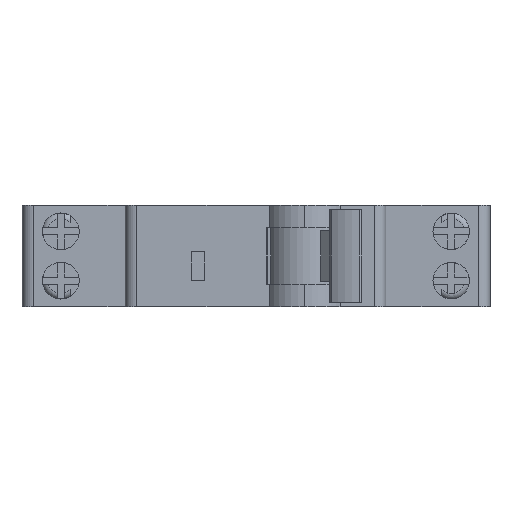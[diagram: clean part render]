
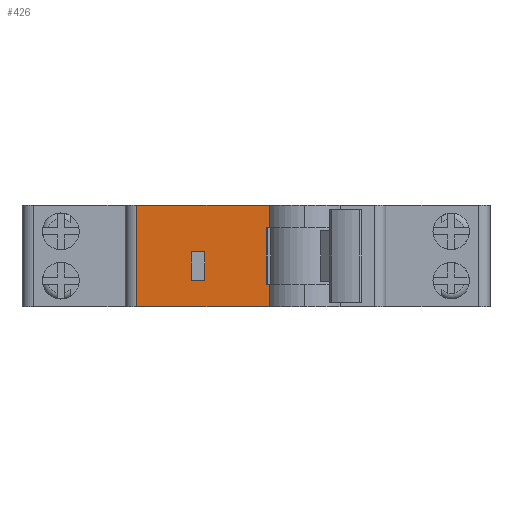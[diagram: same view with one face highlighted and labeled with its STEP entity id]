
A CAD part, left-side view. The second image highlights one B-rep face of the part: STEP entity #426.
In plain terms, the highlighted planar face has unit normal (-1, 0, 0).
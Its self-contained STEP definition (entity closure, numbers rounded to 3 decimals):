
#119 = VERTEX_POINT ( 'NONE', #7583 ) ;
#277 = EDGE_CURVE ( 'NONE', #5686, #3202, #1298, .T. ) ;
#317 = LINE ( 'NONE', #4777, #4726 ) ;
#356 = VERTEX_POINT ( 'NONE', #881 ) ;
#426 = ADVANCED_FACE ( 'NONE', ( #3640, #1777 ), #5953, .T. ) ;
#538 = DIRECTION ( 'NONE',  ( 0., 1., 0. ) ) ;
#603 = VECTOR ( 'NONE', #7123, 1000. ) ;
#689 = DIRECTION ( 'NONE',  ( 0., 0., -1. ) ) ;
#724 = DIRECTION ( 'NONE',  ( 0., 1., 0. ) ) ;
#881 = CARTESIAN_POINT ( 'NONE',  ( -16.3, 49.25, 4.5 ) ) ;
#914 = ORIENTED_EDGE ( 'NONE', *, *, #3740, .T. ) ;
#929 = VECTOR ( 'NONE', #7754, 1000. ) ;
#1003 = ORIENTED_EDGE ( 'NONE', *, *, #5908, .F. ) ;
#1005 = LINE ( 'NONE', #1540, #5939 ) ;
#1128 = VERTEX_POINT ( 'NONE', #4542 ) ;
#1298 = LINE ( 'NONE', #6411, #603 ) ;
#1354 = LINE ( 'NONE', #7089, #929 ) ;
#1362 = EDGE_CURVE ( 'NONE', #5027, #1128, #4289, .T. ) ;
#1540 = CARTESIAN_POINT ( 'NONE',  ( -16.3, 38.107, 3.9 ) ) ;
#1682 = VECTOR ( 'NONE', #538, 1000. ) ;
#1777 = FACE_OUTER_BOUND ( 'NONE', #3348, .T. ) ;
#1928 = DIRECTION ( 'NONE',  ( 0., -1., 0. ) ) ;
#2107 = EDGE_CURVE ( 'NONE', #3919, #3039, #4304, .T. ) ;
#2159 = DIRECTION ( 'NONE',  ( -1., 0., 0. ) ) ;
#2176 = LINE ( 'NONE', #4704, #1682 ) ;
#2341 = EDGE_CURVE ( 'NONE', #356, #6378, #6138, .T. ) ;
#2353 = EDGE_CURVE ( 'NONE', #5027, #119, #2176, .T. ) ;
#2427 = EDGE_CURVE ( 'NONE', #7549, #2471, #6796, .T. ) ;
#2471 = VERTEX_POINT ( 'NONE', #8136 ) ;
#2522 = DIRECTION ( 'NONE',  ( 0., 0., -1. ) ) ;
#2644 = VECTOR ( 'NONE', #1928, 1000. ) ;
#2817 = EDGE_CURVE ( 'NONE', #7179, #5686, #1005, .T. ) ;
#2823 = ORIENTED_EDGE ( 'NONE', *, *, #277, .T. ) ;
#2827 = EDGE_CURVE ( 'NONE', #7179, #7549, #317, .T. ) ;
#3039 = VERTEX_POINT ( 'NONE', #4242 ) ;
#3041 = CARTESIAN_POINT ( 'NONE',  ( -16.3, 18., 0. ) ) ;
#3163 = CARTESIAN_POINT ( 'NONE',  ( -16.3, 51.5, 9.5 ) ) ;
#3202 = VERTEX_POINT ( 'NONE', #7698 ) ;
#3206 = CARTESIAN_POINT ( 'NONE',  ( -16.3, 38.107, 17.5 ) ) ;
#3348 = EDGE_LOOP ( 'NONE', ( #5375, #4477, #2823, #4547, #5001, #5260, #914, #5186 ) ) ;
#3478 = CARTESIAN_POINT ( 'NONE',  ( -16.3, 49.25, 9.5 ) ) ;
#3507 = DIRECTION ( 'NONE',  ( 0., 1., 0. ) ) ;
#3530 = CARTESIAN_POINT ( 'NONE',  ( -16.3, 38.107, 3.9 ) ) ;
#3640 = FACE_BOUND ( 'NONE', #7834, .T. ) ;
#3740 = EDGE_CURVE ( 'NONE', #119, #2471, #5438, .T. ) ;
#3919 = VERTEX_POINT ( 'NONE', #3163 ) ;
#4038 = AXIS2_PLACEMENT_3D ( 'NONE', #5570, #2159, #4893 ) ;
#4176 = CARTESIAN_POINT ( 'NONE',  ( -16.3, 61., 17.5 ) ) ;
#4232 = VECTOR ( 'NONE', #3507, 1000. ) ;
#4242 = CARTESIAN_POINT ( 'NONE',  ( -16.3, 51.5, 4.5 ) ) ;
#4289 = LINE ( 'NONE', #8083, #4987 ) ;
#4304 = LINE ( 'NONE', #5685, #5671 ) ;
#4423 = CARTESIAN_POINT ( 'NONE',  ( -16.3, 51.5, 4.5 ) ) ;
#4477 = ORIENTED_EDGE ( 'NONE', *, *, #2817, .T. ) ;
#4478 = VECTOR ( 'NONE', #6218, 1000. ) ;
#4542 = CARTESIAN_POINT ( 'NONE',  ( -16.3, 38.107, 13.6 ) ) ;
#4547 = ORIENTED_EDGE ( 'NONE', *, *, #6965, .F. ) ;
#4704 = CARTESIAN_POINT ( 'NONE',  ( -16.3, 18., 17.5 ) ) ;
#4726 = VECTOR ( 'NONE', #7367, 1000. ) ;
#4777 = CARTESIAN_POINT ( 'NONE',  ( -16.3, 38.107, 17.5 ) ) ;
#4893 = DIRECTION ( 'NONE',  ( 0., 0., 1. ) ) ;
#4987 = VECTOR ( 'NONE', #689, 1000. ) ;
#5001 = ORIENTED_EDGE ( 'NONE', *, *, #1362, .F. ) ;
#5027 = VERTEX_POINT ( 'NONE', #3206 ) ;
#5034 = EDGE_CURVE ( 'NONE', #3039, #356, #7725, .T. ) ;
#5186 = ORIENTED_EDGE ( 'NONE', *, *, #2427, .F. ) ;
#5260 = ORIENTED_EDGE ( 'NONE', *, *, #2353, .T. ) ;
#5268 = VECTOR ( 'NONE', #8046, 1000. ) ;
#5354 = CARTESIAN_POINT ( 'NONE',  ( -16.3, 51.5, 9.5 ) ) ;
#5375 = ORIENTED_EDGE ( 'NONE', *, *, #2827, .F. ) ;
#5438 = LINE ( 'NONE', #4176, #4478 ) ;
#5459 = DIRECTION ( 'NONE',  ( 0., 1., 0. ) ) ;
#5512 = CARTESIAN_POINT ( 'NONE',  ( -16.3, 49.25, 4.5 ) ) ;
#5570 = CARTESIAN_POINT ( 'NONE',  ( -16.3, 18., 17.5 ) ) ;
#5671 = VECTOR ( 'NONE', #2522, 1000. ) ;
#5685 = CARTESIAN_POINT ( 'NONE',  ( -16.3, 51.5, 4.5 ) ) ;
#5686 = VERTEX_POINT ( 'NONE', #7953 ) ;
#5908 = EDGE_CURVE ( 'NONE', #6378, #3919, #7931, .T. ) ;
#5939 = VECTOR ( 'NONE', #5459, 1000. ) ;
#5953 = PLANE ( 'NONE',  #4038 ) ;
#6138 = LINE ( 'NONE', #5512, #5268 ) ;
#6218 = DIRECTION ( 'NONE',  ( 0., 0., -1. ) ) ;
#6378 = VERTEX_POINT ( 'NONE', #3478 ) ;
#6411 = CARTESIAN_POINT ( 'NONE',  ( -16.3, 38.477, 3.9 ) ) ;
#6593 = VECTOR ( 'NONE', #724, 1000. ) ;
#6796 = LINE ( 'NONE', #3041, #6593 ) ;
#6965 = EDGE_CURVE ( 'NONE', #1128, #3202, #1354, .T. ) ;
#7089 = CARTESIAN_POINT ( 'NONE',  ( -16.3, 38.107, 13.6 ) ) ;
#7123 = DIRECTION ( 'NONE',  ( 0., 0., 1. ) ) ;
#7179 = VERTEX_POINT ( 'NONE', #3530 ) ;
#7211 = ORIENTED_EDGE ( 'NONE', *, *, #2341, .F. ) ;
#7223 = ORIENTED_EDGE ( 'NONE', *, *, #5034, .F. ) ;
#7363 = CARTESIAN_POINT ( 'NONE',  ( -16.3, 38.107, 0. ) ) ;
#7367 = DIRECTION ( 'NONE',  ( 0., 0., -1. ) ) ;
#7372 = ORIENTED_EDGE ( 'NONE', *, *, #2107, .F. ) ;
#7549 = VERTEX_POINT ( 'NONE', #7363 ) ;
#7583 = CARTESIAN_POINT ( 'NONE',  ( -16.3, 61., 17.5 ) ) ;
#7698 = CARTESIAN_POINT ( 'NONE',  ( -16.3, 38.477, 13.6 ) ) ;
#7725 = LINE ( 'NONE', #4423, #2644 ) ;
#7754 = DIRECTION ( 'NONE',  ( 0., 1., 0. ) ) ;
#7834 = EDGE_LOOP ( 'NONE', ( #7223, #7372, #1003, #7211 ) ) ;
#7931 = LINE ( 'NONE', #5354, #4232 ) ;
#7953 = CARTESIAN_POINT ( 'NONE',  ( -16.3, 38.477, 3.9 ) ) ;
#8046 = DIRECTION ( 'NONE',  ( 0., 0., 1. ) ) ;
#8083 = CARTESIAN_POINT ( 'NONE',  ( -16.3, 38.107, 17.5 ) ) ;
#8136 = CARTESIAN_POINT ( 'NONE',  ( -16.3, 61., 0. ) ) ;
